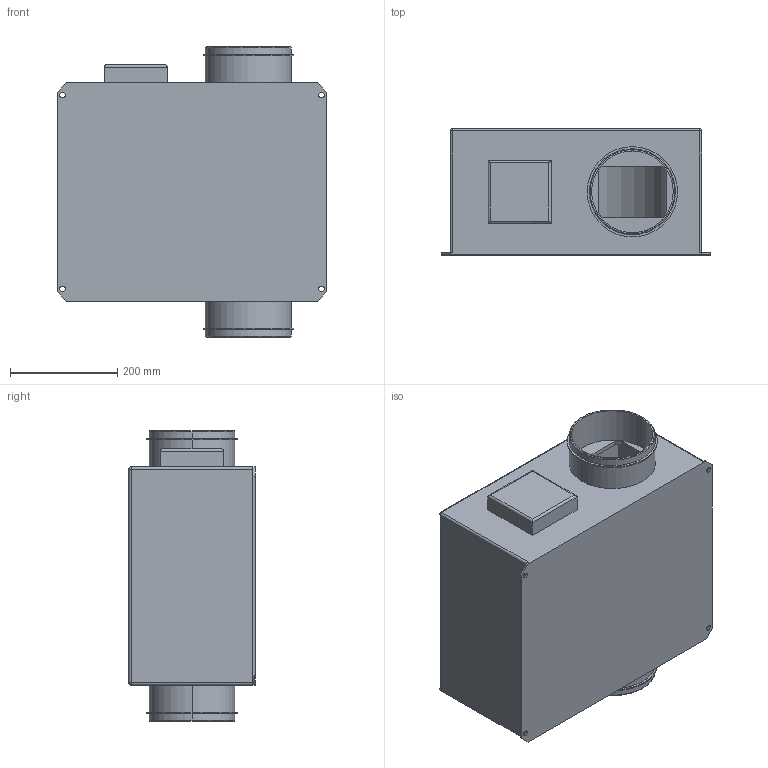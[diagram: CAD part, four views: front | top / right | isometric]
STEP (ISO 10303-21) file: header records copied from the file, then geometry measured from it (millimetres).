
FILE_DESCRIPTION(('STEP AP214'),'1');
FILE_NAME('fan_5113217300.stp','2017-03-31T12:39:25',('TraceParts'),('TraceParts S.A.'),'Spatial InterOp 3D',' ',' ');
FILE_SCHEMA(('automotive_design'));
Length unit declared in the file: millimetre
Products named in the file (1): fan_5113217300
Bounding box: 502 x 235 x 540 mm (x, y, z)
Volume: 7794031.1 mm3; surface area: 2218636.7 mm2
Topology: 1 solids, 1 shells, 108 faces, 269 edges, 172 vertices
Faces by surface type: cylinder 54, plane 46, torus 4, sphere 4
Entity records: 4067 total; most frequent: DIRECTION 601, CARTESIAN_POINT 546, ORIENTED_EDGE 530, EDGE_CURVE 265, AXIS2_PLACEMENT_3D 227, VERTEX_POINT 172, LINE 147, VECTOR 147
